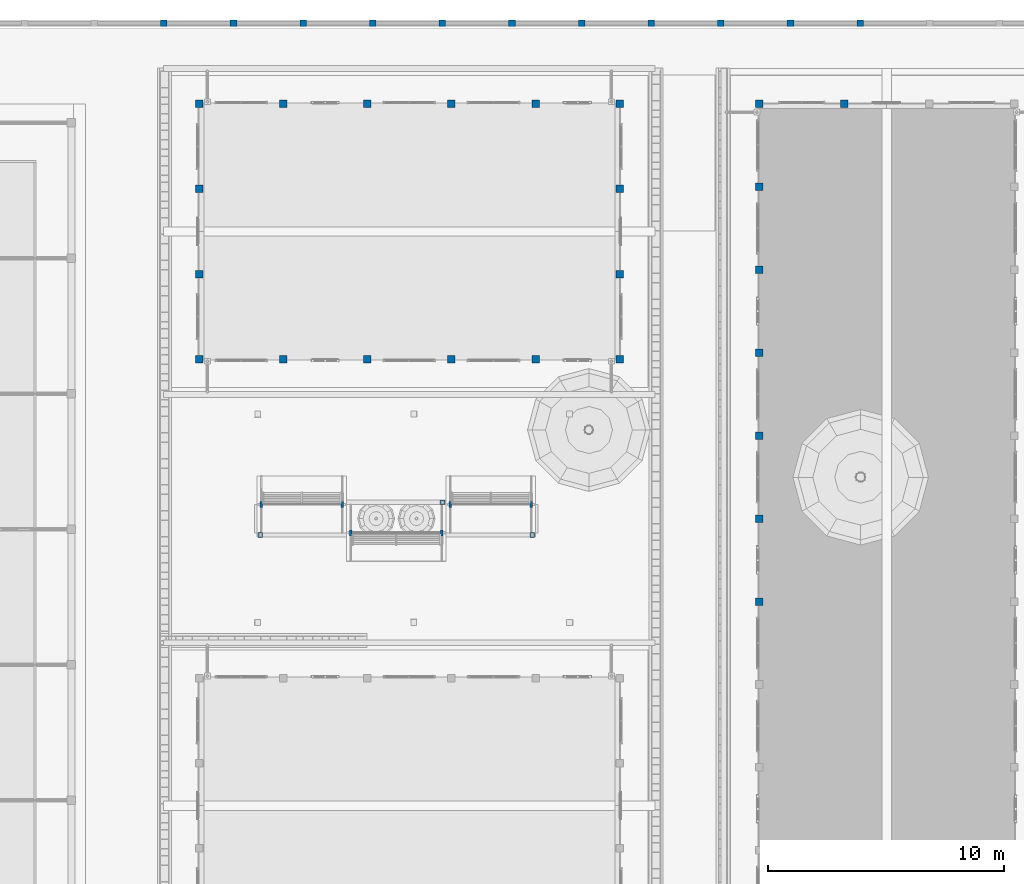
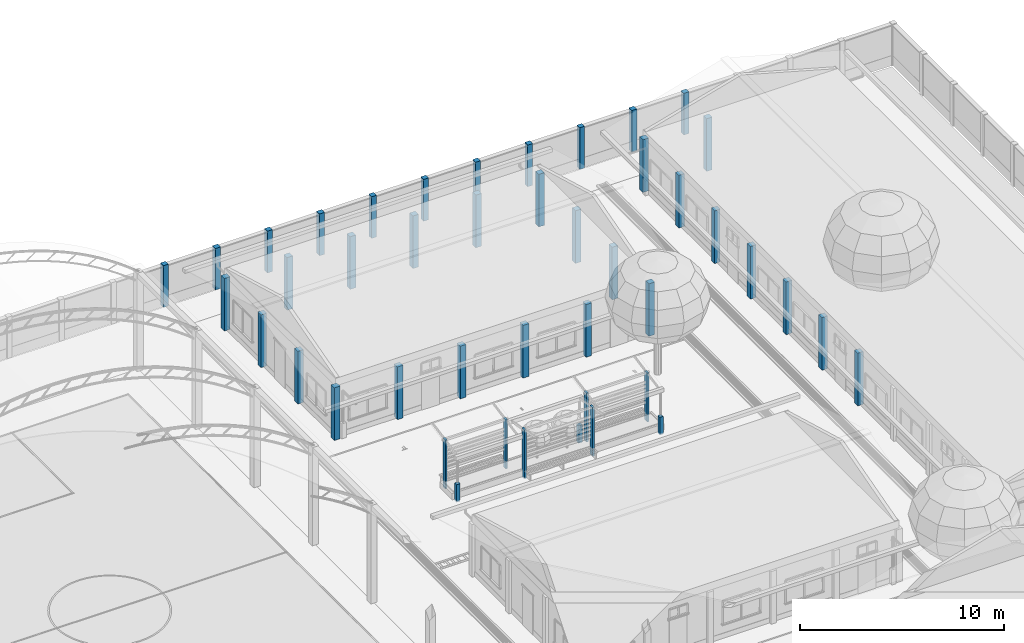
# One storey, part 11 of 166: 49 columns.
"""IFC2X3 building model written with IfcOpenShell, lengths in metres."""

from ifc_helpers import new_model, si_unit, origin, origin_with_axes, place, context, subcontext, project, spatial, faceted_brep, element, save


model = new_model("IFC2X3")

# Units and contexts
model_context = context("Model", 3, precision=1e-05, world=origin_with_axes())
body_context = subcontext(model_context, "Body", "Model", "MODEL_VIEW")
ifc_project = project(units=[si_unit("LENGTHUNIT", "METRE"), si_unit("AREAUNIT", "SQUARE_METRE"), si_unit("VOLUMEUNIT", "CUBIC_METRE"), si_unit("PLANEANGLEUNIT", "RADIAN")], contexts=[model_context])

# Site, building, storey
site_placement = place(None, origin_with_axes())
site = spatial("IfcSite", under=ifc_project, at=site_placement, Name="Predio Los Mangos - Morales, San Martín", CompositionType="ELEMENT")
building_placement = place(site_placement, origin())
building = spatial("IfcBuilding", under=site, at=building_placement, Name="Hogar de Refugio Temporal", CompositionType="ELEMENT")
storey_placement = place(building_placement, origin())
storey = spatial("IfcBuildingStorey", under=building, at=storey_placement, Name="NIVEL 1 (NPT +0.00)", CompositionType="ELEMENT", Elevation=0.0)

# Columns
column_1_placement = place(storey_placement, origin())
element("IfcColumn", 1, at=column_1_placement, inside=storey, Name="E-08_col", ObjectType="Columna", context=body_context, shape_type="Brep", body=[
    faceted_brep([(31.84, 116.84, 0.15), (31.84, 117.16, 0.15), (32.16, 117.16, 0.15), (32.16, 116.84, 0.15), (31.84, 116.84, 3.3), (32.16, 116.84, 3.3), (32.16, 117.16, 3.3), (31.84, 117.16, 3.3)], [[[0, 1, 2, 3]], [[4, 5, 6, 7]], [[0, 3, 5, 4]], [[3, 2, 6, 5]], [[2, 1, 7, 6]], [[1, 0, 4, 7]]]),
])
column_2_placement = place(storey_placement, origin())
element("IfcColumn", 2, at=column_2_placement, inside=storey, Name="E-08_col", ObjectType="Columna", context=body_context, shape_type="Brep", body=[
    faceted_brep([(35.4, 116.84, 0.15), (35.4, 117.16, 0.15), (35.72, 117.16, 0.15), (35.72, 116.84, 0.15), (35.4, 116.84, 3.3), (35.72, 116.84, 3.3), (35.72, 117.16, 3.3), (35.4, 117.16, 3.3)], [[[0, 1, 2, 3]], [[4, 5, 6, 7]], [[0, 3, 5, 4]], [[3, 2, 6, 5]], [[2, 1, 7, 6]], [[1, 0, 4, 7]]]),
])
column_3_placement = place(storey_placement, origin())
element("IfcColumn", 3, at=column_3_placement, inside=storey, Name="E-08_col", ObjectType="Columna", context=body_context, shape_type="Brep", body=[
    faceted_brep([(38.96, 116.84, 0.15), (38.96, 117.16, 0.15), (39.28, 117.16, 0.15), (39.28, 116.84, 0.15), (38.96, 116.84, 3.3), (39.28, 116.84, 3.3), (39.28, 117.16, 3.3), (38.96, 117.16, 3.3)], [[[0, 1, 2, 3]], [[4, 5, 6, 7]], [[0, 3, 5, 4]], [[3, 2, 6, 5]], [[2, 1, 7, 6]], [[1, 0, 4, 7]]]),
])
column_4_placement = place(storey_placement, origin())
element("IfcColumn", 4, at=column_4_placement, inside=storey, Name="E-08_col", ObjectType="Columna", context=body_context, shape_type="Brep", body=[
    faceted_brep([(42.52, 116.84, 0.15), (42.52, 117.16, 0.15), (42.84, 117.16, 0.15), (42.84, 116.84, 0.15), (42.52, 116.84, 3.3), (42.84, 116.84, 3.3), (42.84, 117.16, 3.3), (42.52, 117.16, 3.3)], [[[0, 1, 2, 3]], [[4, 5, 6, 7]], [[0, 3, 5, 4]], [[3, 2, 6, 5]], [[2, 1, 7, 6]], [[1, 0, 4, 7]]]),
])
column_5_placement = place(storey_placement, origin())
element("IfcColumn", 5, at=column_5_placement, inside=storey, Name="E-08_col", ObjectType="Columna", context=body_context, shape_type="Brep", body=[
    faceted_brep([(46.08, 116.84, 0.15), (46.08, 117.16, 0.15), (46.4, 117.16, 0.15), (46.4, 116.84, 0.15), (46.08, 116.84, 3.3), (46.4, 116.84, 3.3), (46.4, 117.16, 3.3), (46.08, 117.16, 3.3)], [[[0, 1, 2, 3]], [[4, 5, 6, 7]], [[0, 3, 5, 4]], [[3, 2, 6, 5]], [[2, 1, 7, 6]], [[1, 0, 4, 7]]]),
])
column_6_placement = place(storey_placement, origin())
element("IfcColumn", 6, at=column_6_placement, inside=storey, Name="E-08_col", ObjectType="Columna", context=body_context, shape_type="Brep", body=[
    faceted_brep([(49.64, 116.84, 0.15), (49.64, 117.16, 0.15), (49.96, 117.16, 0.15), (49.96, 116.84, 0.15), (49.64, 116.84, 3.3), (49.96, 116.84, 3.3), (49.96, 117.16, 3.3), (49.64, 117.16, 3.3)], [[[0, 1, 2, 3]], [[4, 5, 6, 7]], [[0, 3, 5, 4]], [[3, 2, 6, 5]], [[2, 1, 7, 6]], [[1, 0, 4, 7]]]),
])
column_7_placement = place(storey_placement, origin())
element("IfcColumn", 7, at=column_7_placement, inside=storey, Name="E-08_col", ObjectType="Columna", context=body_context, shape_type="Brep", body=[
    faceted_brep([(31.84, 127.64, 0.15), (31.84, 127.96, 0.15), (32.16, 127.96, 0.15), (32.16, 127.64, 0.15), (31.84, 127.64, 3.3), (32.16, 127.64, 3.3), (32.16, 127.96, 3.3), (31.84, 127.96, 3.3)], [[[0, 1, 2, 3]], [[4, 5, 6, 7]], [[0, 3, 5, 4]], [[3, 2, 6, 5]], [[2, 1, 7, 6]], [[1, 0, 4, 7]]]),
])
column_8_placement = place(storey_placement, origin())
element("IfcColumn", 8, at=column_8_placement, inside=storey, Name="E-08_col", ObjectType="Columna", context=body_context, shape_type="Brep", body=[
    faceted_brep([(35.4, 127.64, 0.15), (35.4, 127.96, 0.15), (35.72, 127.96, 0.15), (35.72, 127.64, 0.15), (35.4, 127.64, 3.3), (35.72, 127.64, 3.3), (35.72, 127.96, 3.3), (35.4, 127.96, 3.3)], [[[0, 1, 2, 3]], [[4, 5, 6, 7]], [[0, 3, 5, 4]], [[3, 2, 6, 5]], [[2, 1, 7, 6]], [[1, 0, 4, 7]]]),
])
column_9_placement = place(storey_placement, origin())
element("IfcColumn", 9, at=column_9_placement, inside=storey, Name="E-08_col", ObjectType="Columna", context=body_context, shape_type="Brep", body=[
    faceted_brep([(38.96, 127.64, 0.15), (38.96, 127.96, 0.15), (39.28, 127.96, 0.15), (39.28, 127.64, 0.15), (38.96, 127.64, 3.3), (39.28, 127.64, 3.3), (39.28, 127.96, 3.3), (38.96, 127.96, 3.3)], [[[0, 1, 2, 3]], [[4, 5, 6, 7]], [[0, 3, 5, 4]], [[3, 2, 6, 5]], [[2, 1, 7, 6]], [[1, 0, 4, 7]]]),
])
column_10_placement = place(storey_placement, origin())
element("IfcColumn", 10, at=column_10_placement, inside=storey, Name="E-08_col", ObjectType="Columna", context=body_context, shape_type="Brep", body=[
    faceted_brep([(42.52, 127.64, 0.15), (42.52, 127.96, 0.15), (42.84, 127.96, 0.15), (42.84, 127.64, 0.15), (42.52, 127.64, 3.3), (42.84, 127.64, 3.3), (42.84, 127.96, 3.3), (42.52, 127.96, 3.3)], [[[0, 1, 2, 3]], [[4, 5, 6, 7]], [[0, 3, 5, 4]], [[3, 2, 6, 5]], [[2, 1, 7, 6]], [[1, 0, 4, 7]]]),
])
column_11_placement = place(storey_placement, origin())
element("IfcColumn", 11, at=column_11_placement, inside=storey, Name="E-08_col", ObjectType="Columna", context=body_context, shape_type="Brep", body=[
    faceted_brep([(46.08, 127.64, 0.15), (46.08, 127.96, 0.15), (46.4, 127.96, 0.15), (46.4, 127.64, 0.15), (46.08, 127.64, 3.3), (46.4, 127.64, 3.3), (46.4, 127.96, 3.3), (46.08, 127.96, 3.3)], [[[0, 1, 2, 3]], [[4, 5, 6, 7]], [[0, 3, 5, 4]], [[3, 2, 6, 5]], [[2, 1, 7, 6]], [[1, 0, 4, 7]]]),
])
column_12_placement = place(storey_placement, origin())
element("IfcColumn", 12, at=column_12_placement, inside=storey, Name="E-08_col", ObjectType="Columna", context=body_context, shape_type="Brep", body=[
    faceted_brep([(49.64, 127.64, 0.15), (49.64, 127.96, 0.15), (49.96, 127.96, 0.15), (49.96, 127.64, 0.15), (49.64, 127.64, 3.3), (49.96, 127.64, 3.3), (49.96, 127.96, 3.3), (49.64, 127.96, 3.3)], [[[0, 1, 2, 3]], [[4, 5, 6, 7]], [[0, 3, 5, 4]], [[3, 2, 6, 5]], [[2, 1, 7, 6]], [[1, 0, 4, 7]]]),
])
column_13_placement = place(storey_placement, origin())
element("IfcColumn", 13, at=column_13_placement, inside=storey, Name="E-08_col", ObjectType="Columna", context=body_context, shape_type="Brep", body=[
    faceted_brep([(31.84, 116.84, 0.15), (31.84, 117.16, 0.15), (32.16, 117.16, 0.15), (32.16, 116.84, 0.15), (31.84, 116.84, 3.3), (32.16, 116.84, 3.3), (32.16, 117.16, 3.3), (31.84, 117.16, 3.3)], [[[0, 1, 2, 3]], [[4, 5, 6, 7]], [[0, 3, 5, 4]], [[3, 2, 6, 5]], [[2, 1, 7, 6]], [[1, 0, 4, 7]]]),
])
column_14_placement = place(storey_placement, origin())
element("IfcColumn", 14, at=column_14_placement, inside=storey, Name="E-08_col", ObjectType="Columna", context=body_context, shape_type="Brep", body=[
    faceted_brep([(31.84, 120.44, 0.15), (31.84, 120.76, 0.15), (32.16, 120.76, 0.15), (32.16, 120.44, 0.15), (31.84, 120.44, 3.3), (32.16, 120.44, 3.3), (32.16, 120.76, 3.3), (31.84, 120.76, 3.3)], [[[0, 1, 2, 3]], [[4, 5, 6, 7]], [[0, 3, 5, 4]], [[3, 2, 6, 5]], [[2, 1, 7, 6]], [[1, 0, 4, 7]]]),
])
column_15_placement = place(storey_placement, origin())
element("IfcColumn", 15, at=column_15_placement, inside=storey, Name="E-08_col", ObjectType="Columna", context=body_context, shape_type="Brep", body=[
    faceted_brep([(31.84, 124.04, 0.15), (31.84, 124.36, 0.15), (32.16, 124.36, 0.15), (32.16, 124.04, 0.15), (31.84, 124.04, 3.3), (32.16, 124.04, 3.3), (32.16, 124.36, 3.3), (31.84, 124.36, 3.3)], [[[0, 1, 2, 3]], [[4, 5, 6, 7]], [[0, 3, 5, 4]], [[3, 2, 6, 5]], [[2, 1, 7, 6]], [[1, 0, 4, 7]]]),
])
column_16_placement = place(storey_placement, origin())
element("IfcColumn", 16, at=column_16_placement, inside=storey, Name="E-08_col", ObjectType="Columna", context=body_context, shape_type="Brep", body=[
    faceted_brep([(31.84, 127.64, 0.15), (31.84, 127.96, 0.15), (32.16, 127.96, 0.15), (32.16, 127.64, 0.15), (31.84, 127.64, 3.3), (32.16, 127.64, 3.3), (32.16, 127.96, 3.3), (31.84, 127.96, 3.3)], [[[0, 1, 2, 3]], [[4, 5, 6, 7]], [[0, 3, 5, 4]], [[3, 2, 6, 5]], [[2, 1, 7, 6]], [[1, 0, 4, 7]]]),
])
column_17_placement = place(storey_placement, origin())
element("IfcColumn", 17, at=column_17_placement, inside=storey, Name="E-08_col", ObjectType="Columna", context=body_context, shape_type="Brep", body=[
    faceted_brep([(49.64, 116.84, 0.15), (49.64, 117.16, 0.15), (49.96, 117.16, 0.15), (49.96, 116.84, 0.15), (49.64, 116.84, 3.3), (49.96, 116.84, 3.3), (49.96, 117.16, 3.3), (49.64, 117.16, 3.3)], [[[0, 1, 2, 3]], [[4, 5, 6, 7]], [[0, 3, 5, 4]], [[3, 2, 6, 5]], [[2, 1, 7, 6]], [[1, 0, 4, 7]]]),
])
column_18_placement = place(storey_placement, origin())
element("IfcColumn", 18, at=column_18_placement, inside=storey, Name="E-08_col", ObjectType="Columna", context=body_context, shape_type="Brep", body=[
    faceted_brep([(49.64, 120.44, 0.15), (49.64, 120.76, 0.15), (49.96, 120.76, 0.15), (49.96, 120.44, 0.15), (49.64, 120.44, 3.3), (49.96, 120.44, 3.3), (49.96, 120.76, 3.3), (49.64, 120.76, 3.3)], [[[0, 1, 2, 3]], [[4, 5, 6, 7]], [[0, 3, 5, 4]], [[3, 2, 6, 5]], [[2, 1, 7, 6]], [[1, 0, 4, 7]]]),
])
column_19_placement = place(storey_placement, origin())
element("IfcColumn", 19, at=column_19_placement, inside=storey, Name="E-08_col", ObjectType="Columna", context=body_context, shape_type="Brep", body=[
    faceted_brep([(49.64, 124.04, 0.15), (49.64, 124.36, 0.15), (49.96, 124.36, 0.15), (49.96, 124.04, 0.15), (49.64, 124.04, 3.3), (49.96, 124.04, 3.3), (49.96, 124.36, 3.3), (49.64, 124.36, 3.3)], [[[0, 1, 2, 3]], [[4, 5, 6, 7]], [[0, 3, 5, 4]], [[3, 2, 6, 5]], [[2, 1, 7, 6]], [[1, 0, 4, 7]]]),
])
column_20_placement = place(storey_placement, origin())
element("IfcColumn", 20, at=column_20_placement, inside=storey, Name="E-08_col", ObjectType="Columna", context=body_context, shape_type="Brep", body=[
    faceted_brep([(49.64, 127.64, 0.15), (49.64, 127.96, 0.15), (49.96, 127.96, 0.15), (49.96, 127.64, 0.15), (49.64, 127.64, 3.3), (49.96, 127.64, 3.3), (49.96, 127.96, 3.3), (49.64, 127.96, 3.3)], [[[0, 1, 2, 3]], [[4, 5, 6, 7]], [[0, 3, 5, 4]], [[3, 2, 6, 5]], [[2, 1, 7, 6]], [[1, 0, 4, 7]]]),
])
column_21_placement = place(storey_placement, origin())
element("IfcColumn", 21, at=column_21_placement, inside=storey, Name="E-07_col", ObjectType="Columna", context=body_context, shape_type="Brep", body=[
    faceted_brep([(55.54, 127.64, 0.15), (55.54, 127.96, 0.15), (55.86, 127.96, 0.15), (55.86, 127.64, 0.15), (55.54, 127.64, 3.3), (55.86, 127.64, 3.3), (55.86, 127.96, 3.3), (55.54, 127.96, 3.3)], [[[0, 1, 2, 3]], [[4, 5, 6, 7]], [[0, 3, 5, 4]], [[3, 2, 6, 5]], [[2, 1, 7, 6]], [[1, 0, 4, 7]]]),
])
column_22_placement = place(storey_placement, origin())
element("IfcColumn", 22, at=column_22_placement, inside=storey, Name="E-07_col", ObjectType="Columna", context=body_context, shape_type="Brep", body=[
    faceted_brep([(59.14, 127.64, 0.15), (59.14, 127.96, 0.15), (59.46, 127.96, 0.15), (59.46, 127.64, 0.15), (59.14, 127.64, 3.3), (59.46, 127.64, 3.3), (59.46, 127.96, 3.3), (59.14, 127.96, 3.3)], [[[0, 1, 2, 3]], [[4, 5, 6, 7]], [[0, 3, 5, 4]], [[3, 2, 6, 5]], [[2, 1, 7, 6]], [[1, 0, 4, 7]]]),
])
column_23_placement = place(storey_placement, origin())
element("IfcColumn", 23, at=column_23_placement, inside=storey, Name="E-07_col", ObjectType="Columna", context=body_context, shape_type="Brep", body=[
    faceted_brep([(55.54, 106.58, 0.15), (55.54, 106.9, 0.15), (55.86, 106.9, 0.15), (55.86, 106.58, 0.15), (55.54, 106.58, 3.3), (55.86, 106.58, 3.3), (55.86, 106.9, 3.3), (55.54, 106.9, 3.3)], [[[0, 1, 2, 3]], [[4, 5, 6, 7]], [[0, 3, 5, 4]], [[3, 2, 6, 5]], [[2, 1, 7, 6]], [[1, 0, 4, 7]]]),
])
column_24_placement = place(storey_placement, origin())
element("IfcColumn", 24, at=column_24_placement, inside=storey, Name="E-07_col", ObjectType="Columna", context=body_context, shape_type="Brep", body=[
    faceted_brep([(55.54, 110.09, 0.15), (55.54, 110.41, 0.15), (55.86, 110.41, 0.15), (55.86, 110.09, 0.15), (55.54, 110.09, 3.3), (55.86, 110.09, 3.3), (55.86, 110.41, 3.3), (55.54, 110.41, 3.3)], [[[0, 1, 2, 3]], [[4, 5, 6, 7]], [[0, 3, 5, 4]], [[3, 2, 6, 5]], [[2, 1, 7, 6]], [[1, 0, 4, 7]]]),
])
column_25_placement = place(storey_placement, origin())
element("IfcColumn", 25, at=column_25_placement, inside=storey, Name="E-07_col", ObjectType="Columna", context=body_context, shape_type="Brep", body=[
    faceted_brep([(55.54, 113.6, 0.15), (55.54, 113.92, 0.15), (55.86, 113.92, 0.15), (55.86, 113.6, 0.15), (55.54, 113.6, 3.3), (55.86, 113.6, 3.3), (55.86, 113.92, 3.3), (55.54, 113.92, 3.3)], [[[0, 1, 2, 3]], [[4, 5, 6, 7]], [[0, 3, 5, 4]], [[3, 2, 6, 5]], [[2, 1, 7, 6]], [[1, 0, 4, 7]]]),
])
column_26_placement = place(storey_placement, origin())
element("IfcColumn", 26, at=column_26_placement, inside=storey, Name="E-07_col", ObjectType="Columna", context=body_context, shape_type="Brep", body=[
    faceted_brep([(55.54, 117.11, 0.15), (55.54, 117.43, 0.15), (55.86, 117.43, 0.15), (55.86, 117.11, 0.15), (55.54, 117.11, 3.3), (55.86, 117.11, 3.3), (55.86, 117.43, 3.3), (55.54, 117.43, 3.3)], [[[0, 1, 2, 3]], [[4, 5, 6, 7]], [[0, 3, 5, 4]], [[3, 2, 6, 5]], [[2, 1, 7, 6]], [[1, 0, 4, 7]]]),
])
column_27_placement = place(storey_placement, origin())
element("IfcColumn", 27, at=column_27_placement, inside=storey, Name="E-07_col", ObjectType="Columna", context=body_context, shape_type="Brep", body=[
    faceted_brep([(55.54, 120.62, 0.15), (55.54, 120.94, 0.15), (55.86, 120.94, 0.15), (55.86, 120.62, 0.15), (55.54, 120.62, 3.3), (55.86, 120.62, 3.3), (55.86, 120.94, 3.3), (55.54, 120.94, 3.3)], [[[0, 1, 2, 3]], [[4, 5, 6, 7]], [[0, 3, 5, 4]], [[3, 2, 6, 5]], [[2, 1, 7, 6]], [[1, 0, 4, 7]]]),
])
column_28_placement = place(storey_placement, origin())
element("IfcColumn", 28, at=column_28_placement, inside=storey, Name="E-07_col", ObjectType="Columna", context=body_context, shape_type="Brep", body=[
    faceted_brep([(55.54, 124.13, 0.15), (55.54, 124.45, 0.15), (55.86, 124.45, 0.15), (55.86, 124.13, 0.15), (55.54, 124.13, 3.3), (55.86, 124.13, 3.3), (55.86, 124.45, 3.3), (55.54, 124.45, 3.3)], [[[0, 1, 2, 3]], [[4, 5, 6, 7]], [[0, 3, 5, 4]], [[3, 2, 6, 5]], [[2, 1, 7, 6]], [[1, 0, 4, 7]]]),
])
column_29_placement = place(storey_placement, origin())
element("IfcColumn", 29, at=column_29_placement, inside=storey, Name="E-07_col", ObjectType="Columna", context=body_context, shape_type="Brep", body=[
    faceted_brep([(55.54, 127.64, 0.15), (55.54, 127.96, 0.15), (55.86, 127.96, 0.15), (55.86, 127.64, 0.15), (55.54, 127.64, 3.3), (55.86, 127.64, 3.3), (55.86, 127.96, 3.3), (55.54, 127.96, 3.3)], [[[0, 1, 2, 3]], [[4, 5, 6, 7]], [[0, 3, 5, 4]], [[3, 2, 6, 5]], [[2, 1, 7, 6]], [[1, 0, 4, 7]]]),
])
column_30_placement = place(storey_placement, origin())
element("IfcColumn", 30, at=column_30_placement, inside=storey, Name="columna_cerco", ObjectType="Columna", context=body_context, shape_type="Brep", body=[
    faceted_brep([(60.115, 131.35, 0.0), (60.115, 131.07, 0.0), (59.835, 131.07, 0.0), (59.835, 131.35, 0.0), (60.115, 131.35, 2.5), (59.835, 131.35, 2.5), (59.835, 131.07, 2.5), (60.115, 131.07, 2.5)], [[[0, 1, 2, 3]], [[4, 5, 6, 7]], [[0, 3, 5, 4]], [[3, 2, 6, 5]], [[2, 1, 7, 6]], [[1, 0, 4, 7]]]),
])
column_31_placement = place(storey_placement, origin())
element("IfcColumn", 31, at=column_31_placement, inside=storey, Name="columna_cerco", ObjectType="Columna", context=body_context, shape_type="Brep", body=[
    faceted_brep([(57.1688, 131.35, 0.0), (57.1688, 131.07, 0.0), (56.8888, 131.07, 0.0), (56.8888, 131.35, 0.0), (57.1688, 131.35, 2.5), (56.8888, 131.35, 2.5), (56.8888, 131.07, 2.5), (57.1688, 131.07, 2.5)], [[[0, 1, 2, 3]], [[4, 5, 6, 7]], [[0, 3, 5, 4]], [[3, 2, 6, 5]], [[2, 1, 7, 6]], [[1, 0, 4, 7]]]),
])
column_32_placement = place(storey_placement, origin())
element("IfcColumn", 32, at=column_32_placement, inside=storey, Name="columna_cerco", ObjectType="Columna", context=body_context, shape_type="Brep", body=[
    faceted_brep([(54.2225, 131.35, 0.0), (54.2225, 131.07, 0.0), (53.9425, 131.07, 0.0), (53.9425, 131.35, 0.0), (54.2225, 131.35, 2.5), (53.9425, 131.35, 2.5), (53.9425, 131.07, 2.5), (54.2225, 131.07, 2.5)], [[[0, 1, 2, 3]], [[4, 5, 6, 7]], [[0, 3, 5, 4]], [[3, 2, 6, 5]], [[2, 1, 7, 6]], [[1, 0, 4, 7]]]),
])
column_33_placement = place(storey_placement, origin())
element("IfcColumn", 33, at=column_33_placement, inside=storey, Name="columna_cerco", ObjectType="Columna", context=body_context, shape_type="Brep", body=[
    faceted_brep([(51.2762, 131.35, 0.0), (51.2762, 131.07, 0.0), (50.9963, 131.07, 0.0), (50.9963, 131.35, 0.0), (51.2762, 131.35, 2.5), (50.9963, 131.35, 2.5), (50.9963, 131.07, 2.5), (51.2762, 131.07, 2.5)], [[[0, 1, 2, 3]], [[4, 5, 6, 7]], [[0, 3, 5, 4]], [[3, 2, 6, 5]], [[2, 1, 7, 6]], [[1, 0, 4, 7]]]),
])
column_34_placement = place(storey_placement, origin())
element("IfcColumn", 34, at=column_34_placement, inside=storey, Name="columna_cerco", ObjectType="Columna", context=body_context, shape_type="Brep", body=[
    faceted_brep([(48.33, 131.35, 0.0), (48.33, 131.07, 0.0), (48.05, 131.07, 0.0), (48.05, 131.35, 0.0), (48.33, 131.35, 2.5), (48.05, 131.35, 2.5), (48.05, 131.07, 2.5), (48.33, 131.07, 2.5)], [[[0, 1, 2, 3]], [[4, 5, 6, 7]], [[0, 3, 5, 4]], [[3, 2, 6, 5]], [[2, 1, 7, 6]], [[1, 0, 4, 7]]]),
])
column_35_placement = place(storey_placement, origin())
element("IfcColumn", 35, at=column_35_placement, inside=storey, Name="columna_cerco", ObjectType="Columna", context=body_context, shape_type="Brep", body=[
    faceted_brep([(45.3838, 131.35, 0.0), (45.3838, 131.07, 0.0), (45.1038, 131.07, 0.0), (45.1038, 131.35, 0.0), (45.3838, 131.35, 2.5), (45.1038, 131.35, 2.5), (45.1038, 131.07, 2.5), (45.3838, 131.07, 2.5)], [[[0, 1, 2, 3]], [[4, 5, 6, 7]], [[0, 3, 5, 4]], [[3, 2, 6, 5]], [[2, 1, 7, 6]], [[1, 0, 4, 7]]]),
])
column_36_placement = place(storey_placement, origin())
element("IfcColumn", 36, at=column_36_placement, inside=storey, Name="columna_cerco", ObjectType="Columna", context=body_context, shape_type="Brep", body=[
    faceted_brep([(42.4375, 131.35, 0.0), (42.4375, 131.07, 0.0), (42.1575, 131.07, 0.0), (42.1575, 131.35, 0.0), (42.4375, 131.35, 2.5), (42.1575, 131.35, 2.5), (42.1575, 131.07, 2.5), (42.4375, 131.07, 2.5)], [[[0, 1, 2, 3]], [[4, 5, 6, 7]], [[0, 3, 5, 4]], [[3, 2, 6, 5]], [[2, 1, 7, 6]], [[1, 0, 4, 7]]]),
])
column_37_placement = place(storey_placement, origin())
element("IfcColumn", 37, at=column_37_placement, inside=storey, Name="columna_cerco", ObjectType="Columna", context=body_context, shape_type="Brep", body=[
    faceted_brep([(39.4912, 131.35, 0.0), (39.4912, 131.07, 0.0), (39.2113, 131.07, 0.0), (39.2113, 131.35, 0.0), (39.4912, 131.35, 2.5), (39.2113, 131.35, 2.5), (39.2113, 131.07, 2.5), (39.4912, 131.07, 2.5)], [[[0, 1, 2, 3]], [[4, 5, 6, 7]], [[0, 3, 5, 4]], [[3, 2, 6, 5]], [[2, 1, 7, 6]], [[1, 0, 4, 7]]]),
])
column_38_placement = place(storey_placement, origin())
element("IfcColumn", 38, at=column_38_placement, inside=storey, Name="columna_cerco", ObjectType="Columna", context=body_context, shape_type="Brep", body=[
    faceted_brep([(36.545, 131.35, 0.0), (36.545, 131.07, 0.0), (36.265, 131.07, 0.0), (36.265, 131.35, 0.0), (36.545, 131.35, 2.5), (36.265, 131.35, 2.5), (36.265, 131.07, 2.5), (36.545, 131.07, 2.5)], [[[0, 1, 2, 3]], [[4, 5, 6, 7]], [[0, 3, 5, 4]], [[3, 2, 6, 5]], [[2, 1, 7, 6]], [[1, 0, 4, 7]]]),
])
column_39_placement = place(storey_placement, origin())
element("IfcColumn", 39, at=column_39_placement, inside=storey, Name="columna_cerco", ObjectType="Columna", context=body_context, shape_type="Brep", body=[
    faceted_brep([(33.5988, 131.35, 0.0), (33.5988, 131.07, 0.0), (33.3188, 131.07, 0.0), (33.3188, 131.35, 0.0), (33.5988, 131.35, 2.5), (33.3188, 131.35, 2.5), (33.3188, 131.07, 2.5), (33.5988, 131.07, 2.5)], [[[0, 1, 2, 3]], [[4, 5, 6, 7]], [[0, 3, 5, 4]], [[3, 2, 6, 5]], [[2, 1, 7, 6]], [[1, 0, 4, 7]]]),
])
column_40_placement = place(storey_placement, origin())
element("IfcColumn", 40, at=column_40_placement, inside=storey, Name="columna_cerco", ObjectType="Columna", context=body_context, shape_type="Brep", body=[
    faceted_brep([(30.6525, 131.35, 0.0), (30.6525, 131.07, 0.0), (30.3725, 131.07, 0.0), (30.3725, 131.35, 0.0), (30.6525, 131.35, 2.5), (30.3725, 131.35, 2.5), (30.3725, 131.07, 2.5), (30.6525, 131.07, 2.5)], [[[0, 1, 2, 3]], [[4, 5, 6, 7]], [[0, 3, 5, 4]], [[3, 2, 6, 5]], [[2, 1, 7, 6]], [[1, 0, 4, 7]]]),
])
column_41_placement = place(storey_placement, origin())
element("IfcColumn", 41, at=column_41_placement, inside=storey, Name="oc01_columna", ObjectType="Columna", context=body_context, shape_type="Brep", body=[
    faceted_brep([(46.115, 110.975, 0.0), (46.115, 110.725, 0.0), (46.015, 110.725, 0.0), (46.015, 110.975, 0.0), (46.115, 110.975, 2.93), (46.015, 110.975, 2.93), (46.015, 110.725, 2.93), (46.115, 110.725, 2.93)], [[[0, 1, 2, 3]], [[4, 5, 6, 7]], [[0, 3, 5, 4]], [[3, 2, 6, 5]], [[2, 1, 7, 6]], [[1, 0, 4, 7]]]),
])
column_42_placement = place(storey_placement, origin())
element("IfcColumn", 42, at=column_42_placement, inside=storey, Name="oc01_columna", ObjectType="Columna", context=body_context, shape_type="Brep", body=[
    faceted_brep([(42.685, 110.975, 0.0), (42.685, 110.725, 0.0), (42.585, 110.725, 0.0), (42.585, 110.975, 0.0), (42.685, 110.975, 2.93), (42.585, 110.975, 2.93), (42.585, 110.725, 2.93), (42.685, 110.725, 2.93)], [[[0, 1, 2, 3]], [[4, 5, 6, 7]], [[0, 3, 5, 4]], [[3, 2, 6, 5]], [[2, 1, 7, 6]], [[1, 0, 4, 7]]]),
])
column_43_placement = place(storey_placement, origin())
element("IfcColumn", 43, at=column_43_placement, inside=storey, Name="oc01_falsa_columna", ObjectType="Falsa columna", context=body_context, shape_type="Brep", body=[
    faceted_brep([(46.195, 109.66, 0.0), (46.195, 109.46, 0.0), (45.995, 109.46, 0.0), (45.995, 109.66, 0.0), (46.195, 109.66, 1.05), (45.995, 109.66, 1.05), (45.995, 109.46, 1.05), (46.195, 109.46, 1.05)], [[[0, 1, 2, 3]], [[4, 5, 6, 7]], [[0, 3, 5, 4]], [[3, 2, 6, 5]], [[2, 1, 7, 6]], [[1, 0, 4, 7]]]),
])
column_44_placement = place(storey_placement, origin())
element("IfcColumn", 44, at=column_44_placement, inside=storey, Name="oc01_columna", ObjectType="Columna", context=body_context, shape_type="Brep", body=[
    faceted_brep([(42.325, 109.775, 0.0), (42.325, 109.525, 0.0), (42.225, 109.525, 0.0), (42.225, 109.775, 0.0), (42.325, 109.775, 2.93), (42.225, 109.775, 2.93), (42.225, 109.525, 2.93), (42.325, 109.525, 2.93)], [[[0, 1, 2, 3]], [[4, 5, 6, 7]], [[0, 3, 5, 4]], [[3, 2, 6, 5]], [[2, 1, 7, 6]], [[1, 0, 4, 7]]]),
])
column_45_placement = place(storey_placement, origin())
element("IfcColumn", 45, at=column_45_placement, inside=storey, Name="oc01_columna", ObjectType="Columna", context=body_context, shape_type="Brep", body=[
    faceted_brep([(38.475, 109.775, 0.0), (38.475, 109.525, 0.0), (38.375, 109.525, 0.0), (38.375, 109.775, 0.0), (38.475, 109.775, 2.93), (38.375, 109.775, 2.93), (38.375, 109.525, 2.93), (38.475, 109.525, 2.93)], [[[0, 1, 2, 3]], [[4, 5, 6, 7]], [[0, 3, 5, 4]], [[3, 2, 6, 5]], [[2, 1, 7, 6]], [[1, 0, 4, 7]]]),
])
column_46_placement = place(storey_placement, origin())
element("IfcColumn", 46, at=column_46_placement, inside=storey, Name="oc01_falsa_columna", ObjectType="Falsa columna", context=body_context, shape_type="Brep", body=[
    faceted_brep([(42.405, 111.04, 0.0), (42.405, 110.84, 0.0), (42.205, 110.84, 0.0), (42.205, 111.04, 0.0), (42.405, 111.04, 1.05), (42.205, 111.04, 1.05), (42.205, 110.84, 1.05), (42.405, 110.84, 1.05)], [[[0, 1, 2, 3]], [[4, 5, 6, 7]], [[0, 3, 5, 4]], [[3, 2, 6, 5]], [[2, 1, 7, 6]], [[1, 0, 4, 7]]]),
])
column_47_placement = place(storey_placement, origin())
element("IfcColumn", 47, at=column_47_placement, inside=storey, Name="oc01_columna", ObjectType="Columna", context=body_context, shape_type="Brep", body=[
    faceted_brep([(38.115, 110.975, 0.0), (38.115, 110.725, 0.0), (38.015, 110.725, 0.0), (38.015, 110.975, 0.0), (38.115, 110.975, 2.93), (38.015, 110.975, 2.93), (38.015, 110.725, 2.93), (38.115, 110.725, 2.93)], [[[0, 1, 2, 3]], [[4, 5, 6, 7]], [[0, 3, 5, 4]], [[3, 2, 6, 5]], [[2, 1, 7, 6]], [[1, 0, 4, 7]]]),
])
column_48_placement = place(storey_placement, origin())
element("IfcColumn", 48, at=column_48_placement, inside=storey, Name="oc01_columna", ObjectType="Columna", context=body_context, shape_type="Brep", body=[
    faceted_brep([(34.685, 110.975, 0.0), (34.685, 110.725, 0.0), (34.585, 110.725, 0.0), (34.585, 110.975, 0.0), (34.685, 110.975, 2.93), (34.585, 110.975, 2.93), (34.585, 110.725, 2.93), (34.685, 110.725, 2.93)], [[[0, 1, 2, 3]], [[4, 5, 6, 7]], [[0, 3, 5, 4]], [[3, 2, 6, 5]], [[2, 1, 7, 6]], [[1, 0, 4, 7]]]),
])
column_49_placement = place(storey_placement, origin())
element("IfcColumn", 49, at=column_49_placement, inside=storey, Name="oc01_falsa_columna", ObjectType="Falsa columna", context=body_context, shape_type="Brep", body=[
    faceted_brep([(34.695, 109.66, 0.0), (34.695, 109.46, 0.0), (34.495, 109.46, 0.0), (34.495, 109.66, 0.0), (34.695, 109.66, 1.05), (34.495, 109.66, 1.05), (34.495, 109.46, 1.05), (34.695, 109.46, 1.05)], [[[0, 1, 2, 3]], [[4, 5, 6, 7]], [[0, 3, 5, 4]], [[3, 2, 6, 5]], [[2, 1, 7, 6]], [[1, 0, 4, 7]]]),
])

save(model, "model.ifc")
